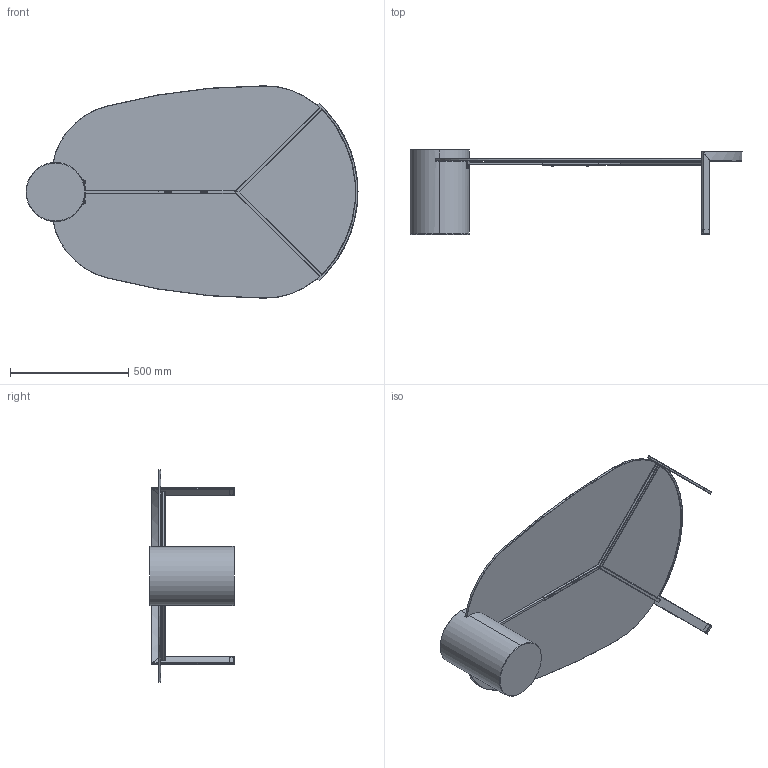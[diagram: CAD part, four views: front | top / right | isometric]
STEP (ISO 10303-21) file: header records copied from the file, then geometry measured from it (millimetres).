
FILE_DESCRIPTION (( 'STEP AP203' ), '1' );
FILE_NAME ('PE83G_Peo Low_130x90_Glass.STEP', '2024-08-06T11:53:12', ( '' ), ( '' ), 'SwSTEP 2.0', 'SolidWorks 2022', '' );
FILE_SCHEMA (( 'CONFIG_CONTROL_DESIGN' ));
Length unit declared in the file: millimetre
Products named in the file (11): C83RI1-00-PIANO CRI.RICOTTO TEMP.130x90 cm SAG.; PE000000001-00-PEO BASE METALLO_PEO0000001 Gambe tavolo marmo<A macchina>; Gommini per PEO; PE83G_Peo Low_130x90_Glass; rondella M6_6X12; rondella M8_8X16; PIEDINO PLASTICA PER PEO; PEO000M01_PEO000M02_PEO000M03_PEO000M04-02-PEO BASE MARMO_Default<A macchina>; PEO001VERBAR-00-BARRA MONTAGGIO PEO SAG. QUADRO 10x10mm; M8xXXmm_M8x16mm; M6xXXmm_M6x12
Assembly tree (21 placements, depth 2):
  PE83G_Peo Low_130x90_Glass
    PEO000M01_PEO000M02_PEO000M03_PEO000M04-02-PEO BASE MARMO_Default<A macchina>
    PE000000001-00-PEO BASE METALLO_PEO0000001 Gambe tavolo marmo<A macchina>
    PIEDINO PLASTICA PER PEO  x2
    Gommini per PEO  x7
    C83RI1-00-PIANO CRI.RICOTTO TEMP.130x90 cm SAG.
    PEO001VERBAR-00-BARRA MONTAGGIO PEO SAG. QUADRO 10x10mm
    rondella M6_6X12  x2
    M6xXXmm_M6x12  x2
    rondella M8_8X16  x2
    M8xXXmm_M8x16mm  x2
Bounding box: 1406.52 x 360 x 900 mm (x, y, z)
Volume: 27330600.9 mm3; surface area: 2866120.6 mm2
Topology: 27 solids, 27 shells, 464 faces, 1076 edges, 661 vertices
Faces by surface type: plane 182, cylinder 140, cone 68, torus 56, sphere 14, bspline 4
Entity records: 11895 total; most frequent: CARTESIAN_POINT 2958, DIRECTION 1594, ORIENTED_EDGE 1544, EDGE_CURVE 772, AXIS2_PLACEMENT_3D 615, VERTEX_POINT 487, LINE 364, VECTOR 364
